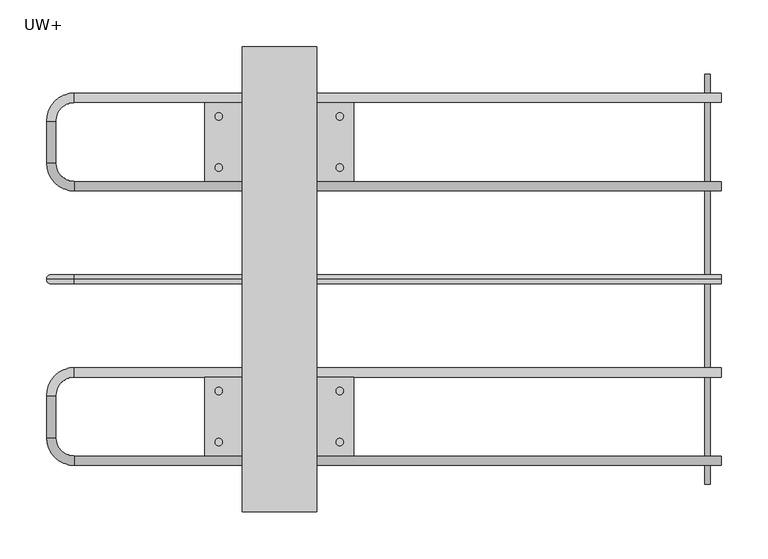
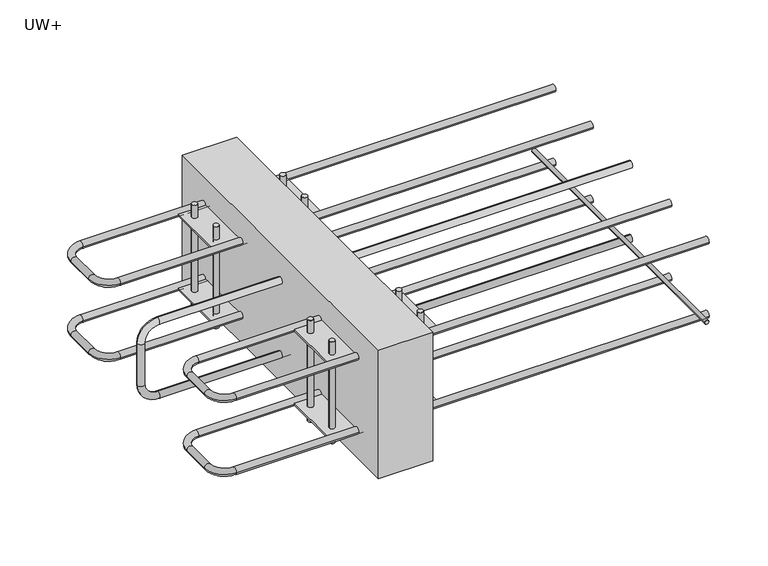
"""IFC4 building model written with IfcOpenShell, lengths in millimetres: proxy geometry, ACINOXplus_Typenreihe_UW-OW : UW+."""

from ifc_helpers import new_model, si_unit, point, frame, frame_2d, origin, place, context, project, spatial, polyline, circle_curve, ellipse_curve, trimmed, segment, composite_curve, outline, extrude, source, transform, mapped, element, save
from ifc_brep_helpers import plane_surface, cylinder_surface, revolved_surface, advanced_brep


def uw_d5b7e790(model_context):
    return source(origin(), model_context, "Body", "SolidModel", [
        advanced_brep(
        [(475.0, 0.0, -37.5), (475.0, 0.0, -47.5), (-220.0, 0.0, -37.5), (-220.0, 0.0, -47.5), (-240.0, 0.0, -67.5), (-250.0, 0.0, -67.5), (-250.0, 0.0, -132.5), (-240.0, 0.0, -132.5), (-220.0, 0.0, -152.5), (-220.0, 0.0, -162.5), (475.0, 0.0, -162.5), (475.0, 0.0, -152.5)],
        [
            (0, 1, circle_curve(frame((475.0, 0.0, -42.5), z_axis=(1.0, 0.0, 0.0), x_axis=(0.0, 0.0, -1.0)), 5.0)),
            (1, 0, circle_curve(frame((475.0, 0.0, -42.5), z_axis=(1.0, 0.0, 0.0), x_axis=(0.0, 0.0, -1.0)), 5.0)),
            (0, 2),
            (2, 3, circle_curve(frame((-220.0, 0.0, -42.5), z_axis=(1.0, 0.0, 0.0), x_axis=(0.0, 0.0, -1.0)), 5.0)),
            (3, 1),
            (3, 2, circle_curve(frame((-220.0, 0.0, -42.5), z_axis=(1.0, 0.0, 0.0), x_axis=(0.0, 0.0, -1.0)), 5.0)),
            (4, 3, circle_curve(frame((-220.0, 0.0, -67.5), z_axis=(0.0, 1.0, 0.0), x_axis=(0.0, 0.0, 1.0)), 20.0)),
            (2, 5, circle_curve(frame((-220.0, 0.0, -67.5), z_axis=(0.0, -1.0, 0.0), x_axis=(0.0, 0.0, 1.0)), 30.0)),
            (5, 4, circle_curve(frame((-245.0, 0.0, -67.5), z_axis=(0.0, 0.0, 1.0), x_axis=(1.0, 0.0, 0.0)), 5.0)),
            (4, 5, circle_curve(frame((-245.0, 0.0, -67.5), z_axis=(0.0, 0.0, 1.0), x_axis=(1.0, 0.0, 0.0)), 5.0)),
            (5, 6),
            (6, 7, circle_curve(frame((-245.0, 0.0, -132.5), z_axis=(0.0, 0.0, 1.0), x_axis=(1.0, 0.0, 0.0)), 5.0)),
            (7, 4),
            (7, 6, circle_curve(frame((-245.0, 0.0, -132.5), z_axis=(0.0, 0.0, 1.0), x_axis=(1.0, 0.0, 0.0)), 5.0)),
            (8, 7, circle_curve(frame((-220.0, 0.0, -132.5), z_axis=(0.0, 1.0, 0.0), x_axis=(-1.0, 0.0, 0.0)), 20.0)),
            (6, 9, circle_curve(frame((-220.0, 0.0, -132.5), z_axis=(0.0, -1.0, 0.0), x_axis=(-1.0, 0.0, 0.0)), 30.0)),
            (9, 8, circle_curve(frame((-220.0, 0.0, -157.5), z_axis=(-1.0, 0.0, 0.0), x_axis=(0.0, 0.0, 1.0)), 5.0)),
            (8, 9, circle_curve(frame((-220.0, 0.0, -157.5), z_axis=(-1.0, 0.0, 0.0), x_axis=(0.0, 0.0, 1.0)), 5.0)),
            (10, 11, circle_curve(frame((475.0, 0.0, -157.5), z_axis=(1.0, 0.0, 0.0), x_axis=(0.0, 0.0, 1.0)), 5.0)),
            (11, 10, circle_curve(frame((475.0, 0.0, -157.5), z_axis=(1.0, 0.0, 0.0), x_axis=(0.0, 0.0, 1.0)), 5.0)),
            (9, 10),
            (11, 8),
        ],
        [
            plane_surface(frame((475.0, 0.0, -42.5), z_axis=(1.0, 0.0, 0.0), x_axis=(0.0, -1.0, 0.0))),
            cylinder_surface(frame((475.0, 0.0, -42.5), z_axis=(1.0, 0.0, 0.0), x_axis=(0.0, 0.0, -1.0)), 5.0),
            revolved_surface(trimmed(ellipse_curve(frame((-220.0, 0.0, -42.5), z_axis=(1.0, 0.0, 0.0), x_axis=(0.0, 0.0, -1.0)), 5.0, 5.0), [point((-220.0, 0.0, -37.5))], [point((-220.0, 0.0, -47.5))], True, "CARTESIAN"), (-220.0, 0.0, -67.5), (0.0, -1.0, 0.0)),
            revolved_surface(trimmed(ellipse_curve(frame((-220.0, 0.0, -42.5), z_axis=(1.0, 0.0, 0.0), x_axis=(0.0, 0.0, -1.0)), 5.0, 5.0), [point((-220.0, 0.0, -47.5))], [point((-220.0, 0.0, -37.5))], True, "CARTESIAN"), (-220.0, 0.0, -67.5), (0.0, -1.0, 0.0)),
            cylinder_surface(frame((-245.0, 0.0, -67.5), z_axis=(0.0, 0.0, 1.0), x_axis=(1.0, 0.0, 0.0)), 5.0),
            revolved_surface(trimmed(ellipse_curve(frame((-245.0, 0.0, -132.5), z_axis=(0.0, 0.0, 1.0), x_axis=(1.0, 0.0, 0.0)), 5.0, 5.0), [point((-250.0, 0.0, -132.5))], [point((-240.0, 0.0, -132.5))], True, "CARTESIAN"), (-220.0, 0.0, -132.5), (0.0, -1.0, 0.0)),
            revolved_surface(trimmed(ellipse_curve(frame((-245.0, 0.0, -132.5), z_axis=(0.0, 0.0, 1.0), x_axis=(1.0, 0.0, 0.0)), 5.0, 5.0), [point((-240.0, 0.0, -132.5))], [point((-250.0, 0.0, -132.5))], True, "CARTESIAN"), (-220.0, 0.0, -132.5), (0.0, -1.0, 0.0)),
            plane_surface(frame((475.0, 0.0, -157.5), z_axis=(1.0, 0.0, 0.0), x_axis=(0.0, -1.0, 0.0))),
            cylinder_surface(frame((-220.0, 0.0, -157.5), z_axis=(-1.0, 0.0, 0.0), x_axis=(0.0, 0.0, 1.0)), 5.0),
        ],
        [
            (0, [[1, 2]]),
            (1, [[-1, 3, 4, 5]]),
            (1, [[-2, -5, 6, -3]]),
            (2, [[7, -4, 8, 9]]),
            (3, [[-8, -6, -7, 10]]),
            (4, [[-9, 11, 12, 13]]),
            (4, [[-10, -13, 14, -11]]),
            (5, [[15, -12, 16, 17]]),
            (6, [[-16, -14, -15, 18]]),
            (7, [[19, 20]]),
            (8, [[-17, 21, -20, 22]]),
            (8, [[-18, -22, -19, -21]]),
        ],
    ),
        advanced_brep(
        [(475.0, -95.0, -42.5), (475.0, -105.0, -42.5), (-220.0, -95.0, -42.5), (-220.0, -105.0, -42.5), (-240.0, -125.0, -42.5), (-250.0, -125.0, -42.5), (-250.0, -170.0, -42.5), (-240.0, -170.0, -42.5), (-220.0, -190.0, -42.5), (-220.0, -200.0, -42.5), (475.0, -200.0, -42.5), (475.0, -190.0, -42.5)],
        [
            (0, 1, circle_curve(frame((475.0, -100.0, -42.5), z_axis=(1.0, 0.0, 0.0), x_axis=(0.0, -1.0, 0.0)), 5.0)),
            (1, 0, circle_curve(frame((475.0, -100.0, -42.5), z_axis=(1.0, 0.0, 0.0), x_axis=(0.0, -1.0, 0.0)), 5.0)),
            (0, 2),
            (2, 3, circle_curve(frame((-220.0, -100.0, -42.5), z_axis=(1.0, 0.0, 0.0), x_axis=(0.0, -1.0, 0.0)), 5.0)),
            (3, 1),
            (3, 2, circle_curve(frame((-220.0, -100.0, -42.5), z_axis=(1.0, 0.0, 0.0), x_axis=(0.0, -1.0, 0.0)), 5.0)),
            (4, 3, circle_curve(frame((-220.0, -125.0, -42.5), z_axis=(0.0, 0.0, -1.0), x_axis=(0.0, 1.0, 0.0)), 20.0)),
            (2, 5, circle_curve(frame((-220.0, -125.0, -42.5), z_axis=(0.0, 0.0, 1.0), x_axis=(0.0, 1.0, 0.0)), 30.0)),
            (5, 4, circle_curve(frame((-245.0, -125.0, -42.5), z_axis=(0.0, 1.0, 0.0), x_axis=(1.0, 0.0, 0.0)), 5.0)),
            (4, 5, circle_curve(frame((-245.0, -125.0, -42.5), z_axis=(0.0, 1.0, 0.0), x_axis=(1.0, 0.0, 0.0)), 5.0)),
            (5, 6),
            (6, 7, circle_curve(frame((-245.0, -170.0, -42.5), z_axis=(0.0, 1.0, 0.0), x_axis=(1.0, 0.0, 0.0)), 5.0)),
            (7, 4),
            (7, 6, circle_curve(frame((-245.0, -170.0, -42.5), z_axis=(0.0, 1.0, 0.0), x_axis=(1.0, 0.0, 0.0)), 5.0)),
            (8, 7, circle_curve(frame((-220.0, -170.0, -42.5), z_axis=(0.0, 0.0, -1.0), x_axis=(-1.0, 0.0, 0.0)), 20.0)),
            (6, 9, circle_curve(frame((-220.0, -170.0, -42.5), z_axis=(0.0, 0.0, 1.0), x_axis=(-1.0, 0.0, 0.0)), 30.0)),
            (9, 8, circle_curve(frame((-220.0, -195.0, -42.5), z_axis=(-1.0, 0.0, 0.0), x_axis=(0.0, 1.0, 0.0)), 5.0)),
            (8, 9, circle_curve(frame((-220.0, -195.0, -42.5), z_axis=(-1.0, 0.0, 0.0), x_axis=(0.0, 1.0, 0.0)), 5.0)),
            (10, 11, circle_curve(frame((475.0, -195.0, -42.5), z_axis=(1.0, 0.0, 0.0), x_axis=(0.0, 1.0, 0.0)), 5.0)),
            (11, 10, circle_curve(frame((475.0, -195.0, -42.5), z_axis=(1.0, 0.0, 0.0), x_axis=(0.0, 1.0, 0.0)), 5.0)),
            (9, 10),
            (11, 8),
        ],
        [
            plane_surface(frame((475.0, -100.0, -42.5), z_axis=(1.0, 0.0, 0.0), x_axis=(0.0, 0.0, 1.0))),
            cylinder_surface(frame((475.0, -100.0, -42.5), z_axis=(1.0, 0.0, 0.0), x_axis=(0.0, -1.0, 0.0)), 5.0),
            revolved_surface(trimmed(ellipse_curve(frame((-220.0, -100.0, -42.5), z_axis=(1.0, 0.0, 0.0), x_axis=(0.0, -1.0, 0.0)), 5.0, 5.0), [point((-220.0, -95.0, -42.5))], [point((-220.0, -105.0, -42.5))], True, "CARTESIAN"), (-220.0, -125.0, -42.5), (0.0, 0.0, 1.0)),
            revolved_surface(trimmed(ellipse_curve(frame((-220.0, -100.0, -42.5), z_axis=(1.0, 0.0, 0.0), x_axis=(0.0, -1.0, 0.0)), 5.0, 5.0), [point((-220.0, -105.0, -42.5))], [point((-220.0, -95.0, -42.5))], True, "CARTESIAN"), (-220.0, -125.0, -42.5), (0.0, 0.0, 1.0)),
            cylinder_surface(frame((-245.0, -125.0, -42.5), z_axis=(0.0, 1.0, 0.0), x_axis=(1.0, 0.0, 0.0)), 5.0),
            revolved_surface(trimmed(ellipse_curve(frame((-245.0, -170.0, -42.5), z_axis=(0.0, 1.0, 0.0), x_axis=(1.0, 0.0, 0.0)), 5.0, 5.0), [point((-250.0, -170.0, -42.5))], [point((-240.0, -170.0, -42.5))], True, "CARTESIAN"), (-220.0, -170.0, -42.5), (0.0, 0.0, 1.0)),
            revolved_surface(trimmed(ellipse_curve(frame((-245.0, -170.0, -42.5), z_axis=(0.0, 1.0, 0.0), x_axis=(1.0, 0.0, 0.0)), 5.0, 5.0), [point((-240.0, -170.0, -42.5))], [point((-250.0, -170.0, -42.5))], True, "CARTESIAN"), (-220.0, -170.0, -42.5), (0.0, 0.0, 1.0)),
            plane_surface(frame((475.0, -195.0, -42.5), z_axis=(1.0, 0.0, 0.0), x_axis=(0.0, 0.0, 1.0))),
            cylinder_surface(frame((-220.0, -195.0, -42.5), z_axis=(-1.0, 0.0, 0.0), x_axis=(0.0, 1.0, 0.0)), 5.0),
        ],
        [
            (0, [[1, 2]]),
            (1, [[-1, 3, 4, 5]]),
            (1, [[-2, -5, 6, -3]]),
            (2, [[7, -4, 8, 9]]),
            (3, [[-8, -6, -7, 10]]),
            (4, [[-9, 11, 12, 13]]),
            (4, [[-10, -13, 14, -11]]),
            (5, [[15, -12, 16, 17]]),
            (6, [[-16, -14, -15, 18]]),
            (7, [[19, 20]]),
            (8, [[-17, 21, -20, 22]]),
            (8, [[-18, -22, -19, -21]]),
        ],
    ),
        advanced_brep(
        [(475.0, -95.0, -157.5), (475.0, -105.0, -157.5), (-220.0, -95.0, -157.5), (-220.0, -105.0, -157.5), (-240.0, -125.0, -157.5), (-250.0, -125.0, -157.5), (-250.0, -170.0, -157.5), (-240.0, -170.0, -157.5), (-220.0, -190.0, -157.5), (-220.0, -200.0, -157.5), (475.0, -200.0, -157.5), (475.0, -190.0, -157.5)],
        [
            (0, 1, circle_curve(frame((475.0, -100.0, -157.5), z_axis=(1.0, 0.0, 0.0), x_axis=(0.0, -1.0, 0.0)), 5.0)),
            (1, 0, circle_curve(frame((475.0, -100.0, -157.5), z_axis=(1.0, 0.0, 0.0), x_axis=(0.0, -1.0, 0.0)), 5.0)),
            (0, 2),
            (2, 3, circle_curve(frame((-220.0, -100.0, -157.5), z_axis=(1.0, 0.0, 0.0), x_axis=(0.0, -1.0, 0.0)), 5.0)),
            (3, 1),
            (3, 2, circle_curve(frame((-220.0, -100.0, -157.5), z_axis=(1.0, 0.0, 0.0), x_axis=(0.0, -1.0, 0.0)), 5.0)),
            (4, 3, circle_curve(frame((-220.0, -125.0, -157.5), z_axis=(0.0, 0.0, -1.0), x_axis=(0.0, 1.0, 0.0)), 20.0)),
            (2, 5, circle_curve(frame((-220.0, -125.0, -157.5), z_axis=(0.0, 0.0, 1.0), x_axis=(0.0, 1.0, 0.0)), 30.0)),
            (5, 4, circle_curve(frame((-245.0, -125.0, -157.5), z_axis=(0.0, 1.0, 0.0), x_axis=(1.0, 0.0, 0.0)), 5.0)),
            (4, 5, circle_curve(frame((-245.0, -125.0, -157.5), z_axis=(0.0, 1.0, 0.0), x_axis=(1.0, 0.0, 0.0)), 5.0)),
            (5, 6),
            (6, 7, circle_curve(frame((-245.0, -170.0, -157.5), z_axis=(0.0, 1.0, 0.0), x_axis=(1.0, 0.0, 0.0)), 5.0)),
            (7, 4),
            (7, 6, circle_curve(frame((-245.0, -170.0, -157.5), z_axis=(0.0, 1.0, 0.0), x_axis=(1.0, 0.0, 0.0)), 5.0)),
            (8, 7, circle_curve(frame((-220.0, -170.0, -157.5), z_axis=(0.0, 0.0, -1.0), x_axis=(-1.0, 0.0, 0.0)), 20.0)),
            (6, 9, circle_curve(frame((-220.0, -170.0, -157.5), z_axis=(0.0, 0.0, 1.0), x_axis=(-1.0, 0.0, 0.0)), 30.0)),
            (9, 8, circle_curve(frame((-220.0, -195.0, -157.5), z_axis=(-1.0, 0.0, 0.0), x_axis=(0.0, 1.0, 0.0)), 5.0)),
            (8, 9, circle_curve(frame((-220.0, -195.0, -157.5), z_axis=(-1.0, 0.0, 0.0), x_axis=(0.0, 1.0, 0.0)), 5.0)),
            (10, 11, circle_curve(frame((475.0, -195.0, -157.5), z_axis=(1.0, 0.0, 0.0), x_axis=(0.0, 1.0, 0.0)), 5.0)),
            (11, 10, circle_curve(frame((475.0, -195.0, -157.5), z_axis=(1.0, 0.0, 0.0), x_axis=(0.0, 1.0, 0.0)), 5.0)),
            (9, 10),
            (11, 8),
        ],
        [
            plane_surface(frame((475.0, -100.0, -157.5), z_axis=(1.0, 0.0, 0.0), x_axis=(0.0, 0.0, 1.0))),
            cylinder_surface(frame((475.0, -100.0, -157.5), z_axis=(1.0, 0.0, 0.0), x_axis=(0.0, -1.0, 0.0)), 5.0),
            revolved_surface(trimmed(ellipse_curve(frame((-220.0, -100.0, -157.5), z_axis=(1.0, 0.0, 0.0), x_axis=(0.0, -1.0, 0.0)), 5.0, 5.0), [point((-220.0, -95.0, -157.5))], [point((-220.0, -105.0, -157.5))], True, "CARTESIAN"), (-220.0, -125.0, -157.5), (0.0, 0.0, 1.0)),
            revolved_surface(trimmed(ellipse_curve(frame((-220.0, -100.0, -157.5), z_axis=(1.0, 0.0, 0.0), x_axis=(0.0, -1.0, 0.0)), 5.0, 5.0), [point((-220.0, -105.0, -157.5))], [point((-220.0, -95.0, -157.5))], True, "CARTESIAN"), (-220.0, -125.0, -157.5), (0.0, 0.0, 1.0)),
            cylinder_surface(frame((-245.0, -125.0, -157.5), z_axis=(0.0, 1.0, 0.0), x_axis=(1.0, 0.0, 0.0)), 5.0),
            revolved_surface(trimmed(ellipse_curve(frame((-245.0, -170.0, -157.5), z_axis=(0.0, 1.0, 0.0), x_axis=(1.0, 0.0, 0.0)), 5.0, 5.0), [point((-250.0, -170.0, -157.5))], [point((-240.0, -170.0, -157.5))], True, "CARTESIAN"), (-220.0, -170.0, -157.5), (0.0, 0.0, 1.0)),
            revolved_surface(trimmed(ellipse_curve(frame((-245.0, -170.0, -157.5), z_axis=(0.0, 1.0, 0.0), x_axis=(1.0, 0.0, 0.0)), 5.0, 5.0), [point((-240.0, -170.0, -157.5))], [point((-250.0, -170.0, -157.5))], True, "CARTESIAN"), (-220.0, -170.0, -157.5), (0.0, 0.0, 1.0)),
            plane_surface(frame((475.0, -195.0, -157.5), z_axis=(1.0, 0.0, 0.0), x_axis=(0.0, 0.0, 1.0))),
            cylinder_surface(frame((-220.0, -195.0, -157.5), z_axis=(-1.0, 0.0, 0.0), x_axis=(0.0, 1.0, 0.0)), 5.0),
        ],
        [
            (0, [[1, 2]]),
            (1, [[-1, 3, 4, 5]]),
            (1, [[-2, -5, 6, -3]]),
            (2, [[7, -4, 8, 9]]),
            (3, [[-8, -6, -7, 10]]),
            (4, [[-9, 11, 12, 13]]),
            (4, [[-10, -13, 14, -11]]),
            (5, [[15, -12, 16, 17]]),
            (6, [[-16, -14, -15, 18]]),
            (7, [[19, 20]]),
            (8, [[-17, 21, -20, 22]]),
            (8, [[-18, -22, -19, -21]]),
        ],
    ),
        advanced_brep(
        [(80.0, -105.0, -41.0), (-80.0, -105.0, -41.0), (-80.0, -190.0, -41.0), (80.0, -190.0, -41.0), (-61.0, -120.0, -41.0), (-69.0, -120.0, -41.0), (69.0, -120.0, -41.0), (61.0, -120.0, -41.0), (-61.0, -175.0, -41.0), (-69.0, -175.0, -41.0), (69.0, -175.0, -41.0), (61.0, -175.0, -41.0), (80.0, -105.0, -44.0), (80.0, -190.0, -44.0), (-80.0, -190.0, -44.0), (-80.0, -105.0, -44.0), (-69.0, -120.0, -44.0), (-61.0, -120.0, -44.0), (61.0, -120.0, -44.0), (69.0, -120.0, -44.0), (-69.0, -175.0, -44.0), (-61.0, -175.0, -44.0), (61.0, -175.0, -44.0), (69.0, -175.0, -44.0), (-69.0, -120.0, -21.0), (-61.0, -120.0, -21.0), (61.0, -120.0, -21.0), (69.0, -120.0, -21.0), (-69.0, -175.0, -21.0), (-61.0, -175.0, -21.0), (61.0, -175.0, -21.0), (69.0, -175.0, -21.0), (-69.0, -120.0, -179.0), (-61.0, -120.0, -179.0), (61.0, -120.0, -179.0), (69.0, -120.0, -179.0), (-69.0, -175.0, -179.0), (-61.0, -175.0, -179.0), (61.0, -175.0, -179.0), (69.0, -175.0, -179.0), (-69.0, -120.0, -156.0), (-61.0, -120.0, -156.0), (-61.0, -120.0, -159.0), (-69.0, -120.0, -159.0), (61.0, -120.0, -156.0), (69.0, -120.0, -156.0), (69.0, -120.0, -159.0), (61.0, -120.0, -159.0), (-69.0, -175.0, -156.0), (-61.0, -175.0, -156.0), (-61.0, -175.0, -159.0), (-69.0, -175.0, -159.0), (61.0, -175.0, -156.0), (69.0, -175.0, -156.0), (69.0, -175.0, -159.0), (61.0, -175.0, -159.0), (80.0, -105.0, -156.0), (-80.0, -105.0, -156.0), (-80.0, -190.0, -156.0), (80.0, -190.0, -156.0), (80.0, -105.0, -159.0), (80.0, -190.0, -159.0), (-80.0, -190.0, -159.0), (-80.0, -105.0, -159.0)],
        [
            (0, 1),
            (1, 2),
            (2, 3),
            (3, 0),
            (4, 5, circle_curve(frame((-65.0, -120.0, -41.0), z_axis=(0.0, 0.0, -1.0), x_axis=(1.0, 0.0, 0.0)), 4.0)),
            (5, 4, circle_curve(frame((-65.0, -120.0, -41.0), z_axis=(0.0, 0.0, -1.0), x_axis=(1.0, 0.0, 0.0)), 4.0)),
            (6, 7, circle_curve(frame((65.0, -120.0, -41.0), z_axis=(0.0, 0.0, -1.0), x_axis=(1.0, 0.0, 0.0)), 4.0)),
            (7, 6, circle_curve(frame((65.0, -120.0, -41.0), z_axis=(0.0, 0.0, -1.0), x_axis=(1.0, 0.0, 0.0)), 4.0)),
            (8, 9, circle_curve(frame((-65.0, -175.0, -41.0), z_axis=(0.0, 0.0, -1.0), x_axis=(1.0, 0.0, 0.0)), 4.0)),
            (9, 8, circle_curve(frame((-65.0, -175.0, -41.0), z_axis=(0.0, 0.0, -1.0), x_axis=(1.0, 0.0, 0.0)), 4.0)),
            (10, 11, circle_curve(frame((65.0, -175.0, -41.0), z_axis=(0.0, 0.0, -1.0), x_axis=(1.0, 0.0, 0.0)), 4.0)),
            (11, 10, circle_curve(frame((65.0, -175.0, -41.0), z_axis=(0.0, 0.0, -1.0), x_axis=(1.0, 0.0, 0.0)), 4.0)),
            (12, 13),
            (13, 14),
            (14, 15),
            (15, 12),
            (16, 17, circle_curve(frame((-65.0, -120.0, -44.0), z_axis=(0.0, 0.0, 1.0), x_axis=(1.0, 0.0, 0.0)), 4.0)),
            (17, 16, circle_curve(frame((-65.0, -120.0, -44.0), z_axis=(0.0, 0.0, 1.0), x_axis=(1.0, 0.0, 0.0)), 4.0)),
            (18, 19, circle_curve(frame((65.0, -120.0, -44.0), z_axis=(0.0, 0.0, 1.0), x_axis=(1.0, 0.0, 0.0)), 4.0)),
            (19, 18, circle_curve(frame((65.0, -120.0, -44.0), z_axis=(0.0, 0.0, 1.0), x_axis=(1.0, 0.0, 0.0)), 4.0)),
            (20, 21, circle_curve(frame((-65.0, -175.0, -44.0), z_axis=(0.0, 0.0, 1.0), x_axis=(1.0, 0.0, 0.0)), 4.0)),
            (21, 20, circle_curve(frame((-65.0, -175.0, -44.0), z_axis=(0.0, 0.0, 1.0), x_axis=(1.0, 0.0, 0.0)), 4.0)),
            (22, 23, circle_curve(frame((65.0, -175.0, -44.0), z_axis=(0.0, 0.0, 1.0), x_axis=(1.0, 0.0, 0.0)), 4.0)),
            (23, 22, circle_curve(frame((65.0, -175.0, -44.0), z_axis=(0.0, 0.0, 1.0), x_axis=(1.0, 0.0, 0.0)), 4.0)),
            (0, 12),
            (15, 1),
            (14, 2),
            (13, 3),
            (24, 25, circle_curve(frame((-65.0, -120.0, -21.0), z_axis=(0.0, 0.0, 1.0), x_axis=(1.0, 0.0, 0.0)), 4.0)),
            (25, 24, circle_curve(frame((-65.0, -120.0, -21.0), z_axis=(0.0, 0.0, 1.0), x_axis=(1.0, 0.0, 0.0)), 4.0)),
            (26, 27, circle_curve(frame((65.0, -120.0, -21.0), z_axis=(0.0, 0.0, 1.0), x_axis=(1.0, 0.0, 0.0)), 4.0)),
            (27, 26, circle_curve(frame((65.0, -120.0, -21.0), z_axis=(0.0, 0.0, 1.0), x_axis=(1.0, 0.0, 0.0)), 4.0)),
            (28, 29, circle_curve(frame((-65.0, -175.0, -21.0), z_axis=(0.0, 0.0, 1.0), x_axis=(1.0, 0.0, 0.0)), 4.0)),
            (29, 28, circle_curve(frame((-65.0, -175.0, -21.0), z_axis=(0.0, 0.0, 1.0), x_axis=(1.0, 0.0, 0.0)), 4.0)),
            (30, 31, circle_curve(frame((65.0, -175.0, -21.0), z_axis=(0.0, 0.0, 1.0), x_axis=(1.0, 0.0, 0.0)), 4.0)),
            (31, 30, circle_curve(frame((65.0, -175.0, -21.0), z_axis=(0.0, 0.0, 1.0), x_axis=(1.0, 0.0, 0.0)), 4.0)),
            (32, 33, circle_curve(frame((-65.0, -120.0, -179.0), z_axis=(0.0, 0.0, -1.0), x_axis=(1.0, 0.0, 0.0)), 4.0)),
            (33, 32, circle_curve(frame((-65.0, -120.0, -179.0), z_axis=(0.0, 0.0, -1.0), x_axis=(1.0, 0.0, 0.0)), 4.0)),
            (34, 35, circle_curve(frame((65.0, -120.0, -179.0), z_axis=(0.0, 0.0, -1.0), x_axis=(1.0, 0.0, 0.0)), 4.0)),
            (35, 34, circle_curve(frame((65.0, -120.0, -179.0), z_axis=(0.0, 0.0, -1.0), x_axis=(1.0, 0.0, 0.0)), 4.0)),
            (36, 37, circle_curve(frame((-65.0, -175.0, -179.0), z_axis=(0.0, 0.0, -1.0), x_axis=(1.0, 0.0, 0.0)), 4.0)),
            (37, 36, circle_curve(frame((-65.0, -175.0, -179.0), z_axis=(0.0, 0.0, -1.0), x_axis=(1.0, 0.0, 0.0)), 4.0)),
            (38, 39, circle_curve(frame((65.0, -175.0, -179.0), z_axis=(0.0, 0.0, -1.0), x_axis=(1.0, 0.0, 0.0)), 4.0)),
            (39, 38, circle_curve(frame((65.0, -175.0, -179.0), z_axis=(0.0, 0.0, -1.0), x_axis=(1.0, 0.0, 0.0)), 4.0)),
            (16, 40),
            (40, 41, circle_curve(frame((-65.0, -120.0, -156.0), z_axis=(0.0, 0.0, 1.0), x_axis=(1.0, 0.0, 0.0)), 4.0)),
            (41, 17),
            (24, 5),
            (4, 25),
            (33, 42),
            (42, 43, circle_curve(frame((-65.0, -120.0, -159.0), z_axis=(0.0, 0.0, -1.0), x_axis=(1.0, 0.0, 0.0)), 4.0)),
            (43, 32),
            (41, 40, circle_curve(frame((-65.0, -120.0, -156.0), z_axis=(0.0, 0.0, 1.0), x_axis=(1.0, 0.0, 0.0)), 4.0)),
            (43, 42, circle_curve(frame((-65.0, -120.0, -159.0), z_axis=(0.0, 0.0, -1.0), x_axis=(1.0, 0.0, 0.0)), 4.0)),
            (18, 44),
            (44, 45, circle_curve(frame((65.0, -120.0, -156.0), z_axis=(0.0, 0.0, 1.0), x_axis=(1.0, 0.0, 0.0)), 4.0)),
            (45, 19),
            (26, 7),
            (6, 27),
            (35, 46),
            (46, 47, circle_curve(frame((65.0, -120.0, -159.0), z_axis=(0.0, 0.0, -1.0), x_axis=(1.0, 0.0, 0.0)), 4.0)),
            (47, 34),
            (45, 44, circle_curve(frame((65.0, -120.0, -156.0), z_axis=(0.0, 0.0, 1.0), x_axis=(1.0, 0.0, 0.0)), 4.0)),
            (47, 46, circle_curve(frame((65.0, -120.0, -159.0), z_axis=(0.0, 0.0, -1.0), x_axis=(1.0, 0.0, 0.0)), 4.0)),
            (20, 48),
            (48, 49, circle_curve(frame((-65.0, -175.0, -156.0), z_axis=(0.0, 0.0, 1.0), x_axis=(1.0, 0.0, 0.0)), 4.0)),
            (49, 21),
            (28, 9),
            (8, 29),
            (37, 50),
            (50, 51, circle_curve(frame((-65.0, -175.0, -159.0), z_axis=(0.0, 0.0, -1.0), x_axis=(1.0, 0.0, 0.0)), 4.0)),
            (51, 36),
            (49, 48, circle_curve(frame((-65.0, -175.0, -156.0), z_axis=(0.0, 0.0, 1.0), x_axis=(1.0, 0.0, 0.0)), 4.0)),
            (51, 50, circle_curve(frame((-65.0, -175.0, -159.0), z_axis=(0.0, 0.0, -1.0), x_axis=(1.0, 0.0, 0.0)), 4.0)),
            (22, 52),
            (52, 53, circle_curve(frame((65.0, -175.0, -156.0), z_axis=(0.0, 0.0, 1.0), x_axis=(1.0, 0.0, 0.0)), 4.0)),
            (53, 23),
            (30, 11),
            (10, 31),
            (39, 54),
            (54, 55, circle_curve(frame((65.0, -175.0, -159.0), z_axis=(0.0, 0.0, -1.0), x_axis=(1.0, 0.0, 0.0)), 4.0)),
            (55, 38),
            (53, 52, circle_curve(frame((65.0, -175.0, -156.0), z_axis=(0.0, 0.0, 1.0), x_axis=(1.0, 0.0, 0.0)), 4.0)),
            (55, 54, circle_curve(frame((65.0, -175.0, -159.0), z_axis=(0.0, 0.0, -1.0), x_axis=(1.0, 0.0, 0.0)), 4.0)),
            (56, 57),
            (57, 58),
            (58, 59),
            (59, 56),
            (60, 61),
            (61, 62),
            (62, 63),
            (63, 60),
            (56, 60),
            (63, 57),
            (62, 58),
            (61, 59),
        ],
        [
            plane_surface(frame((-80.0, -105.0, -41.0), z_axis=(0.0, 0.0, 1.0), x_axis=(-1.0, 0.0, 0.0))),
            plane_surface(frame((-80.0, -105.0, -44.0), z_axis=(0.0, 0.0, -1.0), x_axis=(1.0, 0.0, 0.0))),
            plane_surface(frame((80.0, -105.0, -41.0), z_axis=(0.0, 1.0, 0.0), x_axis=(0.0, 0.0, -1.0))),
            plane_surface(frame((-80.0, -105.0, -41.0), z_axis=(-1.0, 0.0, 0.0), x_axis=(0.0, 0.0, -1.0))),
            plane_surface(frame((-80.0, -190.0, -41.0), z_axis=(0.0, -1.0, 0.0), x_axis=(0.0, 0.0, -1.0))),
            plane_surface(frame((80.0, -190.0, -41.0), z_axis=(1.0, 0.0, 0.0), x_axis=(0.0, 0.0, -1.0))),
            plane_surface(frame((-61.0, -120.0, -21.0), z_axis=(0.0, 0.0, 1.0), x_axis=(0.0, 1.0, 0.0))),
            plane_surface(frame((-61.0, -120.0, -179.0), z_axis=(0.0, 0.0, -1.0), x_axis=(0.0, -1.0, 0.0))),
            cylinder_surface(frame((-65.0, -120.0, -179.0), z_axis=(0.0, 0.0, 1.0), x_axis=(1.0, 0.0, 0.0)), 4.0),
            cylinder_surface(frame((65.0, -120.0, -162.5), z_axis=(0.0, 0.0, 1.0), x_axis=(1.0, 0.0, 0.0)), 4.0),
            cylinder_surface(frame((-65.0, -175.0, -162.5), z_axis=(0.0, 0.0, 1.0), x_axis=(1.0, 0.0, 0.0)), 4.0),
            cylinder_surface(frame((65.0, -175.0, -162.5), z_axis=(0.0, 0.0, 1.0), x_axis=(1.0, 0.0, 0.0)), 4.0),
            plane_surface(frame((-80.0, -105.0, -156.0), z_axis=(0.0, 0.0, 1.0), x_axis=(-1.0, 0.0, 0.0))),
            plane_surface(frame((-80.0, -105.0, -159.0), z_axis=(0.0, 0.0, -1.0), x_axis=(1.0, 0.0, 0.0))),
            plane_surface(frame((80.0, -105.0, -156.0), z_axis=(0.0, 1.0, 0.0), x_axis=(0.0, 0.0, -1.0))),
            plane_surface(frame((-80.0, -105.0, -156.0), z_axis=(-1.0, 0.0, 0.0), x_axis=(0.0, 0.0, -1.0))),
            plane_surface(frame((-80.0, -190.0, -156.0), z_axis=(0.0, -1.0, 0.0), x_axis=(0.0, 0.0, -1.0))),
            plane_surface(frame((80.0, -190.0, -156.0), z_axis=(1.0, 0.0, 0.0), x_axis=(0.0, 0.0, -1.0))),
        ],
        [
            (0, [[1, 2, 3, 4], [5, 6], [7, 8], [9, 10], [11, 12]]),
            (1, [[13, 14, 15, 16], [17, 18], [19, 20], [21, 22], [23, 24]]),
            (2, [[-1, 25, -16, 26]]),
            (3, [[-2, -26, -15, 27]]),
            (4, [[-3, -27, -14, 28]]),
            (5, [[-4, -28, -13, -25]]),
            (6, [[29, 30]]),
            (6, [[31, 32]]),
            (6, [[33, 34]]),
            (6, [[35, 36]]),
            (7, [[37, 38]]),
            (7, [[39, 40]]),
            (7, [[41, 42]]),
            (7, [[43, 44]]),
            (8, [[-17, 45, 46, 47]]),
            (8, [[-29, 48, -5, 49]]),
            (8, [[-38, 50, 51, 52]]),
            (8, [[-18, -47, 53, -45]]),
            (8, [[-30, -49, -6, -48]]),
            (8, [[-37, -52, 54, -50]]),
            (9, [[-19, 55, 56, 57]]),
            (9, [[-31, 58, -7, 59]]),
            (9, [[-40, 60, 61, 62]]),
            (9, [[-20, -57, 63, -55]]),
            (9, [[-32, -59, -8, -58]]),
            (9, [[-39, -62, 64, -60]]),
            (10, [[-21, 65, 66, 67]]),
            (10, [[-33, 68, -9, 69]]),
            (10, [[-42, 70, 71, 72]]),
            (10, [[-22, -67, 73, -65]]),
            (10, [[-34, -69, -10, -68]]),
            (10, [[-41, -72, 74, -70]]),
            (11, [[-23, 75, 76, 77]]),
            (11, [[-35, 78, -11, 79]]),
            (11, [[-44, 80, 81, 82]]),
            (11, [[-24, -77, 83, -75]]),
            (11, [[-36, -79, -12, -78]]),
            (11, [[-43, -82, 84, -80]]),
            (12, [[85, 86, 87, 88], [-46, -53], [-56, -63], [-66, -73], [-76, -83]]),
            (13, [[89, 90, 91, 92], [-51, -54], [-61, -64], [-71, -74], [-81, -84]]),
            (14, [[-85, 93, -92, 94]]),
            (15, [[-86, -94, -91, 95]]),
            (16, [[-87, -95, -90, 96]]),
            (17, [[-88, -96, -89, -93]]),
        ],
    ),
        advanced_brep(
        [(475.0, 200.0, -42.5), (475.0, 190.0, -42.5), (-220.0, 200.0, -42.5), (-220.0, 190.0, -42.5), (-240.0, 170.0, -42.5), (-250.0, 170.0, -42.5), (-250.0, 125.0, -42.5), (-240.0, 125.0, -42.5), (-220.0, 105.0, -42.5), (-220.0, 95.0, -42.5), (475.0, 95.0, -42.5), (475.0, 105.0, -42.5)],
        [
            (0, 1, circle_curve(frame((475.0, 195.0, -42.5), z_axis=(1.0, 0.0, 0.0), x_axis=(0.0, -1.0, 0.0)), 5.0)),
            (1, 0, circle_curve(frame((475.0, 195.0, -42.5), z_axis=(1.0, 0.0, 0.0), x_axis=(0.0, -1.0, 0.0)), 5.0)),
            (0, 2),
            (2, 3, circle_curve(frame((-220.0, 195.0, -42.5), z_axis=(1.0, 0.0, 0.0), x_axis=(0.0, -1.0, 0.0)), 5.0)),
            (3, 1),
            (3, 2, circle_curve(frame((-220.0, 195.0, -42.5), z_axis=(1.0, 0.0, 0.0), x_axis=(0.0, -1.0, 0.0)), 5.0)),
            (4, 3, circle_curve(frame((-220.0, 170.0, -42.5), z_axis=(0.0, 0.0, -1.0), x_axis=(0.0, 1.0, 0.0)), 20.0)),
            (2, 5, circle_curve(frame((-220.0, 170.0, -42.5), z_axis=(0.0, 0.0, 1.0), x_axis=(0.0, 1.0, 0.0)), 30.0)),
            (5, 4, circle_curve(frame((-245.0, 170.0, -42.5), z_axis=(0.0, 1.0, 0.0), x_axis=(1.0, 0.0, 0.0)), 5.0)),
            (4, 5, circle_curve(frame((-245.0, 170.0, -42.5), z_axis=(0.0, 1.0, 0.0), x_axis=(1.0, 0.0, 0.0)), 5.0)),
            (5, 6),
            (6, 7, circle_curve(frame((-245.0, 125.0, -42.5), z_axis=(0.0, 1.0, 0.0), x_axis=(1.0, 0.0, 0.0)), 5.0)),
            (7, 4),
            (7, 6, circle_curve(frame((-245.0, 125.0, -42.5), z_axis=(0.0, 1.0, 0.0), x_axis=(1.0, 0.0, 0.0)), 5.0)),
            (8, 7, circle_curve(frame((-220.0, 125.0, -42.5), z_axis=(0.0, 0.0, -1.0), x_axis=(-1.0, 0.0, 0.0)), 20.0)),
            (6, 9, circle_curve(frame((-220.0, 125.0, -42.5), z_axis=(0.0, 0.0, 1.0), x_axis=(-1.0, 0.0, 0.0)), 30.0)),
            (9, 8, circle_curve(frame((-220.0, 100.0, -42.5), z_axis=(-1.0, 0.0, 0.0), x_axis=(0.0, 1.0, 0.0)), 5.0)),
            (8, 9, circle_curve(frame((-220.0, 100.0, -42.5), z_axis=(-1.0, 0.0, 0.0), x_axis=(0.0, 1.0, 0.0)), 5.0)),
            (10, 11, circle_curve(frame((475.0, 100.0, -42.5), z_axis=(1.0, 0.0, 0.0), x_axis=(0.0, 1.0, 0.0)), 5.0)),
            (11, 10, circle_curve(frame((475.0, 100.0, -42.5), z_axis=(1.0, 0.0, 0.0), x_axis=(0.0, 1.0, 0.0)), 5.0)),
            (9, 10),
            (11, 8),
        ],
        [
            plane_surface(frame((475.0, 195.0, -42.5), z_axis=(1.0, 0.0, 0.0), x_axis=(0.0, 0.0, 1.0))),
            cylinder_surface(frame((475.0, 195.0, -42.5), z_axis=(1.0, 0.0, 0.0), x_axis=(0.0, -1.0, 0.0)), 5.0),
            revolved_surface(trimmed(ellipse_curve(frame((-220.0, 195.0, -42.5), z_axis=(1.0, 0.0, 0.0), x_axis=(0.0, -1.0, 0.0)), 5.0, 5.0), [point((-220.0, 200.0, -42.5))], [point((-220.0, 190.0, -42.5))], True, "CARTESIAN"), (-220.0, 170.0, -42.5), (0.0, 0.0, 1.0)),
            revolved_surface(trimmed(ellipse_curve(frame((-220.0, 195.0, -42.5), z_axis=(1.0, 0.0, 0.0), x_axis=(0.0, -1.0, 0.0)), 5.0, 5.0), [point((-220.0, 190.0, -42.5))], [point((-220.0, 200.0, -42.5))], True, "CARTESIAN"), (-220.0, 170.0, -42.5), (0.0, 0.0, 1.0)),
            cylinder_surface(frame((-245.0, 170.0, -42.5), z_axis=(0.0, 1.0, 0.0), x_axis=(1.0, 0.0, 0.0)), 5.0),
            revolved_surface(trimmed(ellipse_curve(frame((-245.0, 125.0, -42.5), z_axis=(0.0, 1.0, 0.0), x_axis=(1.0, 0.0, 0.0)), 5.0, 5.0), [point((-250.0, 125.0, -42.5))], [point((-240.0, 125.0, -42.5))], True, "CARTESIAN"), (-220.0, 125.0, -42.5), (0.0, 0.0, 1.0)),
            revolved_surface(trimmed(ellipse_curve(frame((-245.0, 125.0, -42.5), z_axis=(0.0, 1.0, 0.0), x_axis=(1.0, 0.0, 0.0)), 5.0, 5.0), [point((-240.0, 125.0, -42.5))], [point((-250.0, 125.0, -42.5))], True, "CARTESIAN"), (-220.0, 125.0, -42.5), (0.0, 0.0, 1.0)),
            plane_surface(frame((475.0, 100.0, -42.5), z_axis=(1.0, 0.0, 0.0), x_axis=(0.0, 0.0, 1.0))),
            cylinder_surface(frame((-220.0, 100.0, -42.5), z_axis=(-1.0, 0.0, 0.0), x_axis=(0.0, 1.0, 0.0)), 5.0),
        ],
        [
            (0, [[1, 2]]),
            (1, [[-1, 3, 4, 5]]),
            (1, [[-2, -5, 6, -3]]),
            (2, [[7, -4, 8, 9]]),
            (3, [[-8, -6, -7, 10]]),
            (4, [[-9, 11, 12, 13]]),
            (4, [[-10, -13, 14, -11]]),
            (5, [[15, -12, 16, 17]]),
            (6, [[-16, -14, -15, 18]]),
            (7, [[19, 20]]),
            (8, [[-17, 21, -20, 22]]),
            (8, [[-18, -22, -19, -21]]),
        ],
    ),
        advanced_brep(
        [(475.0, 200.0, -157.5), (475.0, 190.0, -157.5), (-220.0, 200.0, -157.5), (-220.0, 190.0, -157.5), (-240.0, 170.0, -157.5), (-250.0, 170.0, -157.5), (-250.0, 125.0, -157.5), (-240.0, 125.0, -157.5), (-220.0, 105.0, -157.5), (-220.0, 95.0, -157.5), (475.0, 95.0, -157.5), (475.0, 105.0, -157.5)],
        [
            (0, 1, circle_curve(frame((475.0, 195.0, -157.5), z_axis=(1.0, 0.0, 0.0), x_axis=(0.0, -1.0, 0.0)), 5.0)),
            (1, 0, circle_curve(frame((475.0, 195.0, -157.5), z_axis=(1.0, 0.0, 0.0), x_axis=(0.0, -1.0, 0.0)), 5.0)),
            (0, 2),
            (2, 3, circle_curve(frame((-220.0, 195.0, -157.5), z_axis=(1.0, 0.0, 0.0), x_axis=(0.0, -1.0, 0.0)), 5.0)),
            (3, 1),
            (3, 2, circle_curve(frame((-220.0, 195.0, -157.5), z_axis=(1.0, 0.0, 0.0), x_axis=(0.0, -1.0, 0.0)), 5.0)),
            (4, 3, circle_curve(frame((-220.0, 170.0, -157.5), z_axis=(0.0, 0.0, -1.0), x_axis=(0.0, 1.0, 0.0)), 20.0)),
            (2, 5, circle_curve(frame((-220.0, 170.0, -157.5), z_axis=(0.0, 0.0, 1.0), x_axis=(0.0, 1.0, 0.0)), 30.0)),
            (5, 4, circle_curve(frame((-245.0, 170.0, -157.5), z_axis=(0.0, 1.0, 0.0), x_axis=(1.0, 0.0, 0.0)), 5.0)),
            (4, 5, circle_curve(frame((-245.0, 170.0, -157.5), z_axis=(0.0, 1.0, 0.0), x_axis=(1.0, 0.0, 0.0)), 5.0)),
            (5, 6),
            (6, 7, circle_curve(frame((-245.0, 125.0, -157.5), z_axis=(0.0, 1.0, 0.0), x_axis=(1.0, 0.0, 0.0)), 5.0)),
            (7, 4),
            (7, 6, circle_curve(frame((-245.0, 125.0, -157.5), z_axis=(0.0, 1.0, 0.0), x_axis=(1.0, 0.0, 0.0)), 5.0)),
            (8, 7, circle_curve(frame((-220.0, 125.0, -157.5), z_axis=(0.0, 0.0, -1.0), x_axis=(-1.0, 0.0, 0.0)), 20.0)),
            (6, 9, circle_curve(frame((-220.0, 125.0, -157.5), z_axis=(0.0, 0.0, 1.0), x_axis=(-1.0, 0.0, 0.0)), 30.0)),
            (9, 8, circle_curve(frame((-220.0, 100.0, -157.5), z_axis=(-1.0, 0.0, 0.0), x_axis=(0.0, 1.0, 0.0)), 5.0)),
            (8, 9, circle_curve(frame((-220.0, 100.0, -157.5), z_axis=(-1.0, 0.0, 0.0), x_axis=(0.0, 1.0, 0.0)), 5.0)),
            (10, 11, circle_curve(frame((475.0, 100.0, -157.5), z_axis=(1.0, 0.0, 0.0), x_axis=(0.0, 1.0, 0.0)), 5.0)),
            (11, 10, circle_curve(frame((475.0, 100.0, -157.5), z_axis=(1.0, 0.0, 0.0), x_axis=(0.0, 1.0, 0.0)), 5.0)),
            (9, 10),
            (11, 8),
        ],
        [
            plane_surface(frame((475.0, 195.0, -157.5), z_axis=(1.0, 0.0, 0.0), x_axis=(0.0, 0.0, 1.0))),
            cylinder_surface(frame((475.0, 195.0, -157.5), z_axis=(1.0, 0.0, 0.0), x_axis=(0.0, -1.0, 0.0)), 5.0),
            revolved_surface(trimmed(ellipse_curve(frame((-220.0, 195.0, -157.5), z_axis=(1.0, 0.0, 0.0), x_axis=(0.0, -1.0, 0.0)), 5.0, 5.0), [point((-220.0, 200.0, -157.5))], [point((-220.0, 190.0, -157.5))], True, "CARTESIAN"), (-220.0, 170.0, -157.5), (0.0, 0.0, 1.0)),
            revolved_surface(trimmed(ellipse_curve(frame((-220.0, 195.0, -157.5), z_axis=(1.0, 0.0, 0.0), x_axis=(0.0, -1.0, 0.0)), 5.0, 5.0), [point((-220.0, 190.0, -157.5))], [point((-220.0, 200.0, -157.5))], True, "CARTESIAN"), (-220.0, 170.0, -157.5), (0.0, 0.0, 1.0)),
            cylinder_surface(frame((-245.0, 170.0, -157.5), z_axis=(0.0, 1.0, 0.0), x_axis=(1.0, 0.0, 0.0)), 5.0),
            revolved_surface(trimmed(ellipse_curve(frame((-245.0, 125.0, -157.5), z_axis=(0.0, 1.0, 0.0), x_axis=(1.0, 0.0, 0.0)), 5.0, 5.0), [point((-250.0, 125.0, -157.5))], [point((-240.0, 125.0, -157.5))], True, "CARTESIAN"), (-220.0, 125.0, -157.5), (0.0, 0.0, 1.0)),
            revolved_surface(trimmed(ellipse_curve(frame((-245.0, 125.0, -157.5), z_axis=(0.0, 1.0, 0.0), x_axis=(1.0, 0.0, 0.0)), 5.0, 5.0), [point((-240.0, 125.0, -157.5))], [point((-250.0, 125.0, -157.5))], True, "CARTESIAN"), (-220.0, 125.0, -157.5), (0.0, 0.0, 1.0)),
            plane_surface(frame((475.0, 100.0, -157.5), z_axis=(1.0, 0.0, 0.0), x_axis=(0.0, 0.0, 1.0))),
            cylinder_surface(frame((-220.0, 100.0, -157.5), z_axis=(-1.0, 0.0, 0.0), x_axis=(0.0, 1.0, 0.0)), 5.0),
        ],
        [
            (0, [[1, 2]]),
            (1, [[-1, 3, 4, 5]]),
            (1, [[-2, -5, 6, -3]]),
            (2, [[7, -4, 8, 9]]),
            (3, [[-8, -6, -7, 10]]),
            (4, [[-9, 11, 12, 13]]),
            (4, [[-10, -13, 14, -11]]),
            (5, [[15, -12, 16, 17]]),
            (6, [[-16, -14, -15, 18]]),
            (7, [[19, 20]]),
            (8, [[-17, 21, -20, 22]]),
            (8, [[-18, -22, -19, -21]]),
        ],
    ),
        advanced_brep(
        [(80.0, 190.0, -41.0), (-80.0, 190.0, -41.0), (-80.0, 105.0, -41.0), (80.0, 105.0, -41.0), (-61.0, 175.0, -41.0), (-69.0, 175.0, -41.0), (69.0, 175.0, -41.0), (61.0, 175.0, -41.0), (-61.0, 120.0, -41.0), (-69.0, 120.0, -41.0), (69.0, 120.0, -41.0), (61.0, 120.0, -41.0), (80.0, 190.0, -44.0), (80.0, 105.0, -44.0), (-80.0, 105.0, -44.0), (-80.0, 190.0, -44.0), (-69.0, 175.0, -44.0), (-61.0, 175.0, -44.0), (61.0, 175.0, -44.0), (69.0, 175.0, -44.0), (-69.0, 120.0, -44.0), (-61.0, 120.0, -44.0), (61.0, 120.0, -44.0), (69.0, 120.0, -44.0), (-69.0, 175.0, -21.0), (-61.0, 175.0, -21.0), (61.0, 175.0, -21.0), (69.0, 175.0, -21.0), (-69.0, 120.0, -21.0), (-61.0, 120.0, -21.0), (61.0, 120.0, -21.0), (69.0, 120.0, -21.0), (-69.0, 175.0, -179.0), (-61.0, 175.0, -179.0), (61.0, 175.0, -179.0), (69.0, 175.0, -179.0), (-69.0, 120.0, -179.0), (-61.0, 120.0, -179.0), (61.0, 120.0, -179.0), (69.0, 120.0, -179.0), (-69.0, 175.0, -156.0), (-61.0, 175.0, -156.0), (-61.0, 175.0, -159.0), (-69.0, 175.0, -159.0), (61.0, 175.0, -156.0), (69.0, 175.0, -156.0), (69.0, 175.0, -159.0), (61.0, 175.0, -159.0), (-69.0, 120.0, -156.0), (-61.0, 120.0, -156.0), (-61.0, 120.0, -159.0), (-69.0, 120.0, -159.0), (61.0, 120.0, -156.0), (69.0, 120.0, -156.0), (69.0, 120.0, -159.0), (61.0, 120.0, -159.0), (80.0, 190.0, -156.0), (-80.0, 190.0, -156.0), (-80.0, 105.0, -156.0), (80.0, 105.0, -156.0), (80.0, 190.0, -159.0), (80.0, 105.0, -159.0), (-80.0, 105.0, -159.0), (-80.0, 190.0, -159.0)],
        [
            (0, 1),
            (1, 2),
            (2, 3),
            (3, 0),
            (4, 5, circle_curve(frame((-65.0, 175.0, -41.0), z_axis=(0.0, 0.0, -1.0), x_axis=(1.0, 0.0, 0.0)), 4.0)),
            (5, 4, circle_curve(frame((-65.0, 175.0, -41.0), z_axis=(0.0, 0.0, -1.0), x_axis=(1.0, 0.0, 0.0)), 4.0)),
            (6, 7, circle_curve(frame((65.0, 175.0, -41.0), z_axis=(0.0, 0.0, -1.0), x_axis=(1.0, 0.0, 0.0)), 4.0)),
            (7, 6, circle_curve(frame((65.0, 175.0, -41.0), z_axis=(0.0, 0.0, -1.0), x_axis=(1.0, 0.0, 0.0)), 4.0)),
            (8, 9, circle_curve(frame((-65.0, 120.0, -41.0), z_axis=(0.0, 0.0, -1.0), x_axis=(1.0, 0.0, 0.0)), 4.0)),
            (9, 8, circle_curve(frame((-65.0, 120.0, -41.0), z_axis=(0.0, 0.0, -1.0), x_axis=(1.0, 0.0, 0.0)), 4.0)),
            (10, 11, circle_curve(frame((65.0, 120.0, -41.0), z_axis=(0.0, 0.0, -1.0), x_axis=(1.0, 0.0, 0.0)), 4.0)),
            (11, 10, circle_curve(frame((65.0, 120.0, -41.0), z_axis=(0.0, 0.0, -1.0), x_axis=(1.0, 0.0, 0.0)), 4.0)),
            (12, 13),
            (13, 14),
            (14, 15),
            (15, 12),
            (16, 17, circle_curve(frame((-65.0, 175.0, -44.0), z_axis=(0.0, 0.0, 1.0), x_axis=(1.0, 0.0, 0.0)), 4.0)),
            (17, 16, circle_curve(frame((-65.0, 175.0, -44.0), z_axis=(0.0, 0.0, 1.0), x_axis=(1.0, 0.0, 0.0)), 4.0)),
            (18, 19, circle_curve(frame((65.0, 175.0, -44.0), z_axis=(0.0, 0.0, 1.0), x_axis=(1.0, 0.0, 0.0)), 4.0)),
            (19, 18, circle_curve(frame((65.0, 175.0, -44.0), z_axis=(0.0, 0.0, 1.0), x_axis=(1.0, 0.0, 0.0)), 4.0)),
            (20, 21, circle_curve(frame((-65.0, 120.0, -44.0), z_axis=(0.0, 0.0, 1.0), x_axis=(1.0, 0.0, 0.0)), 4.0)),
            (21, 20, circle_curve(frame((-65.0, 120.0, -44.0), z_axis=(0.0, 0.0, 1.0), x_axis=(1.0, 0.0, 0.0)), 4.0)),
            (22, 23, circle_curve(frame((65.0, 120.0, -44.0), z_axis=(0.0, 0.0, 1.0), x_axis=(1.0, 0.0, 0.0)), 4.0)),
            (23, 22, circle_curve(frame((65.0, 120.0, -44.0), z_axis=(0.0, 0.0, 1.0), x_axis=(1.0, 0.0, 0.0)), 4.0)),
            (0, 12),
            (15, 1),
            (14, 2),
            (13, 3),
            (24, 25, circle_curve(frame((-65.0, 175.0, -21.0), z_axis=(0.0, 0.0, 1.0), x_axis=(1.0, 0.0, 0.0)), 4.0)),
            (25, 24, circle_curve(frame((-65.0, 175.0, -21.0), z_axis=(0.0, 0.0, 1.0), x_axis=(1.0, 0.0, 0.0)), 4.0)),
            (26, 27, circle_curve(frame((65.0, 175.0, -21.0), z_axis=(0.0, 0.0, 1.0), x_axis=(1.0, 0.0, 0.0)), 4.0)),
            (27, 26, circle_curve(frame((65.0, 175.0, -21.0), z_axis=(0.0, 0.0, 1.0), x_axis=(1.0, 0.0, 0.0)), 4.0)),
            (28, 29, circle_curve(frame((-65.0, 120.0, -21.0), z_axis=(0.0, 0.0, 1.0), x_axis=(1.0, 0.0, 0.0)), 4.0)),
            (29, 28, circle_curve(frame((-65.0, 120.0, -21.0), z_axis=(0.0, 0.0, 1.0), x_axis=(1.0, 0.0, 0.0)), 4.0)),
            (30, 31, circle_curve(frame((65.0, 120.0, -21.0), z_axis=(0.0, 0.0, 1.0), x_axis=(1.0, 0.0, 0.0)), 4.0)),
            (31, 30, circle_curve(frame((65.0, 120.0, -21.0), z_axis=(0.0, 0.0, 1.0), x_axis=(1.0, 0.0, 0.0)), 4.0)),
            (32, 33, circle_curve(frame((-65.0, 175.0, -179.0), z_axis=(0.0, 0.0, -1.0), x_axis=(1.0, 0.0, 0.0)), 4.0)),
            (33, 32, circle_curve(frame((-65.0, 175.0, -179.0), z_axis=(0.0, 0.0, -1.0), x_axis=(1.0, 0.0, 0.0)), 4.0)),
            (34, 35, circle_curve(frame((65.0, 175.0, -179.0), z_axis=(0.0, 0.0, -1.0), x_axis=(1.0, 0.0, 0.0)), 4.0)),
            (35, 34, circle_curve(frame((65.0, 175.0, -179.0), z_axis=(0.0, 0.0, -1.0), x_axis=(1.0, 0.0, 0.0)), 4.0)),
            (36, 37, circle_curve(frame((-65.0, 120.0, -179.0), z_axis=(0.0, 0.0, -1.0), x_axis=(1.0, 0.0, 0.0)), 4.0)),
            (37, 36, circle_curve(frame((-65.0, 120.0, -179.0), z_axis=(0.0, 0.0, -1.0), x_axis=(1.0, 0.0, 0.0)), 4.0)),
            (38, 39, circle_curve(frame((65.0, 120.0, -179.0), z_axis=(0.0, 0.0, -1.0), x_axis=(1.0, 0.0, 0.0)), 4.0)),
            (39, 38, circle_curve(frame((65.0, 120.0, -179.0), z_axis=(0.0, 0.0, -1.0), x_axis=(1.0, 0.0, 0.0)), 4.0)),
            (16, 40),
            (40, 41, circle_curve(frame((-65.0, 175.0, -156.0), z_axis=(0.0, 0.0, 1.0), x_axis=(1.0, 0.0, 0.0)), 4.0)),
            (41, 17),
            (24, 5),
            (4, 25),
            (33, 42),
            (42, 43, circle_curve(frame((-65.0, 175.0, -159.0), z_axis=(0.0, 0.0, -1.0), x_axis=(1.0, 0.0, 0.0)), 4.0)),
            (43, 32),
            (41, 40, circle_curve(frame((-65.0, 175.0, -156.0), z_axis=(0.0, 0.0, 1.0), x_axis=(1.0, 0.0, 0.0)), 4.0)),
            (43, 42, circle_curve(frame((-65.0, 175.0, -159.0), z_axis=(0.0, 0.0, -1.0), x_axis=(1.0, 0.0, 0.0)), 4.0)),
            (18, 44),
            (44, 45, circle_curve(frame((65.0, 175.0, -156.0), z_axis=(0.0, 0.0, 1.0), x_axis=(1.0, 0.0, 0.0)), 4.0)),
            (45, 19),
            (26, 7),
            (6, 27),
            (35, 46),
            (46, 47, circle_curve(frame((65.0, 175.0, -159.0), z_axis=(0.0, 0.0, -1.0), x_axis=(1.0, 0.0, 0.0)), 4.0)),
            (47, 34),
            (45, 44, circle_curve(frame((65.0, 175.0, -156.0), z_axis=(0.0, 0.0, 1.0), x_axis=(1.0, 0.0, 0.0)), 4.0)),
            (47, 46, circle_curve(frame((65.0, 175.0, -159.0), z_axis=(0.0, 0.0, -1.0), x_axis=(1.0, 0.0, 0.0)), 4.0)),
            (20, 48),
            (48, 49, circle_curve(frame((-65.0, 120.0, -156.0), z_axis=(0.0, 0.0, 1.0), x_axis=(1.0, 0.0, 0.0)), 4.0)),
            (49, 21),
            (28, 9),
            (8, 29),
            (37, 50),
            (50, 51, circle_curve(frame((-65.0, 120.0, -159.0), z_axis=(0.0, 0.0, -1.0), x_axis=(1.0, 0.0, 0.0)), 4.0)),
            (51, 36),
            (49, 48, circle_curve(frame((-65.0, 120.0, -156.0), z_axis=(0.0, 0.0, 1.0), x_axis=(1.0, 0.0, 0.0)), 4.0)),
            (51, 50, circle_curve(frame((-65.0, 120.0, -159.0), z_axis=(0.0, 0.0, -1.0), x_axis=(1.0, 0.0, 0.0)), 4.0)),
            (22, 52),
            (52, 53, circle_curve(frame((65.0, 120.0, -156.0), z_axis=(0.0, 0.0, 1.0), x_axis=(1.0, 0.0, 0.0)), 4.0)),
            (53, 23),
            (30, 11),
            (10, 31),
            (39, 54),
            (54, 55, circle_curve(frame((65.0, 120.0, -159.0), z_axis=(0.0, 0.0, -1.0), x_axis=(1.0, 0.0, 0.0)), 4.0)),
            (55, 38),
            (53, 52, circle_curve(frame((65.0, 120.0, -156.0), z_axis=(0.0, 0.0, 1.0), x_axis=(1.0, 0.0, 0.0)), 4.0)),
            (55, 54, circle_curve(frame((65.0, 120.0, -159.0), z_axis=(0.0, 0.0, -1.0), x_axis=(1.0, 0.0, 0.0)), 4.0)),
            (56, 57),
            (57, 58),
            (58, 59),
            (59, 56),
            (60, 61),
            (61, 62),
            (62, 63),
            (63, 60),
            (56, 60),
            (63, 57),
            (62, 58),
            (61, 59),
        ],
        [
            plane_surface(frame((-80.0, 190.0, -41.0), z_axis=(0.0, 0.0, 1.0), x_axis=(-1.0, 0.0, 0.0))),
            plane_surface(frame((-80.0, 190.0, -44.0), z_axis=(0.0, 0.0, -1.0), x_axis=(1.0, 0.0, 0.0))),
            plane_surface(frame((80.0, 190.0, -41.0), z_axis=(0.0, 1.0, 0.0), x_axis=(0.0, 0.0, -1.0))),
            plane_surface(frame((-80.0, 190.0, -41.0), z_axis=(-1.0, 0.0, 0.0), x_axis=(0.0, 0.0, -1.0))),
            plane_surface(frame((-80.0, 105.0, -41.0), z_axis=(0.0, -1.0, 0.0), x_axis=(0.0, 0.0, -1.0))),
            plane_surface(frame((80.0, 105.0, -41.0), z_axis=(1.0, 0.0, 0.0), x_axis=(0.0, 0.0, -1.0))),
            plane_surface(frame((-61.0, 175.0, -21.0), z_axis=(0.0, 0.0, 1.0), x_axis=(0.0, 1.0, 0.0))),
            plane_surface(frame((-61.0, 175.0, -179.0), z_axis=(0.0, 0.0, -1.0), x_axis=(0.0, -1.0, 0.0))),
            cylinder_surface(frame((-65.0, 175.0, -179.0), z_axis=(0.0, 0.0, 1.0), x_axis=(1.0, 0.0, 0.0)), 4.0),
            cylinder_surface(frame((65.0, 175.0, -162.5), z_axis=(0.0, 0.0, 1.0), x_axis=(1.0, 0.0, 0.0)), 4.0),
            cylinder_surface(frame((-65.0, 120.0, -162.5), z_axis=(0.0, 0.0, 1.0), x_axis=(1.0, 0.0, 0.0)), 4.0),
            cylinder_surface(frame((65.0, 120.0, -162.5), z_axis=(0.0, 0.0, 1.0), x_axis=(1.0, 0.0, 0.0)), 4.0),
            plane_surface(frame((-80.0, 190.0, -156.0), z_axis=(0.0, 0.0, 1.0), x_axis=(-1.0, 0.0, 0.0))),
            plane_surface(frame((-80.0, 190.0, -159.0), z_axis=(0.0, 0.0, -1.0), x_axis=(1.0, 0.0, 0.0))),
            plane_surface(frame((80.0, 190.0, -156.0), z_axis=(0.0, 1.0, 0.0), x_axis=(0.0, 0.0, -1.0))),
            plane_surface(frame((-80.0, 190.0, -156.0), z_axis=(-1.0, 0.0, 0.0), x_axis=(0.0, 0.0, -1.0))),
            plane_surface(frame((-80.0, 105.0, -156.0), z_axis=(0.0, -1.0, 0.0), x_axis=(0.0, 0.0, -1.0))),
            plane_surface(frame((80.0, 105.0, -156.0), z_axis=(1.0, 0.0, 0.0), x_axis=(0.0, 0.0, -1.0))),
        ],
        [
            (0, [[1, 2, 3, 4], [5, 6], [7, 8], [9, 10], [11, 12]]),
            (1, [[13, 14, 15, 16], [17, 18], [19, 20], [21, 22], [23, 24]]),
            (2, [[-1, 25, -16, 26]]),
            (3, [[-2, -26, -15, 27]]),
            (4, [[-3, -27, -14, 28]]),
            (5, [[-4, -28, -13, -25]]),
            (6, [[29, 30]]),
            (6, [[31, 32]]),
            (6, [[33, 34]]),
            (6, [[35, 36]]),
            (7, [[37, 38]]),
            (7, [[39, 40]]),
            (7, [[41, 42]]),
            (7, [[43, 44]]),
            (8, [[-17, 45, 46, 47]]),
            (8, [[-29, 48, -5, 49]]),
            (8, [[-38, 50, 51, 52]]),
            (8, [[-18, -47, 53, -45]]),
            (8, [[-30, -49, -6, -48]]),
            (8, [[-37, -52, 54, -50]]),
            (9, [[-19, 55, 56, 57]]),
            (9, [[-31, 58, -7, 59]]),
            (9, [[-40, 60, 61, 62]]),
            (9, [[-20, -57, 63, -55]]),
            (9, [[-32, -59, -8, -58]]),
            (9, [[-39, -62, 64, -60]]),
            (10, [[-21, 65, 66, 67]]),
            (10, [[-33, 68, -9, 69]]),
            (10, [[-42, 70, 71, 72]]),
            (10, [[-22, -67, 73, -65]]),
            (10, [[-34, -69, -10, -68]]),
            (10, [[-41, -72, 74, -70]]),
            (11, [[-23, 75, 76, 77]]),
            (11, [[-35, 78, -11, 79]]),
            (11, [[-44, 80, 81, 82]]),
            (11, [[-24, -77, 83, -75]]),
            (11, [[-36, -79, -12, -78]]),
            (11, [[-43, -82, 84, -80]]),
            (12, [[85, 86, 87, 88], [-46, -53], [-56, -63], [-66, -73], [-76, -83]]),
            (13, [[89, 90, 91, 92], [-51, -54], [-61, -64], [-71, -74], [-81, -84]]),
            (14, [[-85, 93, -92, 94]]),
            (15, [[-86, -94, -91, 95]]),
            (16, [[-87, -95, -90, 96]]),
            (17, [[-88, -96, -89, -93]]),
        ],
    ),
        extrude(outline(composite_curve([segment(trimmed(circle_curve(frame_2d((-149.5, 460.0)), 3.0), [point((-149.5, 463.0))], [point((-149.5, 457.0))], False, "CARTESIAN"), True, "CONTINUOUS"), segment(trimmed(circle_curve(frame_2d((-149.5, 460.0)), 3.0), [point((-149.5, 457.0))], [point((-149.5, 463.0))], False, "CARTESIAN"), True, "CONTINUOUS")], self_intersect=False)), frame((0.0, -220.0, 0.0), z_axis=(0.0, 1.0, 0.0), x_axis=(0.0, 0.0, 1.0)), (0.0, 0.0, 1.0), 440.0),
        extrude(outline(polyline([(40.0, 250.0), (40.0, -250.0), (-40.0, -250.0), (-40.0, 250.0), (40.0, 250.0)])), frame((0.0, 0.0, -200.0), z_axis=(0.0, 0.0, 1.0), x_axis=(1.0, 0.0, 0.0)), (0.0, 0.0, 1.0), 200.0),
    ])


if __name__ == "__main__":
    model = new_model("IFC4")
    model_context = context("Model", 3, world=origin())
    ifc_project = project(units=[si_unit("LENGTHUNIT", "METRE", prefix="MILLI")], contexts=[model_context])
    site = spatial("IfcSite", under=ifc_project)
    building = spatial("IfcBuilding", under=site)
    placement = place(None, origin())
    uw_shape = uw_d5b7e790(model_context)
    element("IfcBuildingElementProxy", 1, Name="ACINOXplus_Typenreihe_UW-OW : UW+", ObjectType="ACINOXplus_Typenreihe_UW-OW : UW+", at=placement, inside=building, context=model_context, shape_type="MappedRepresentation", body=[
        mapped(uw_shape, transform((0.0, 0.0, 0.0), x_axis=(1.0, 0.0, 0.0), y_axis=(0.0, 1.0, 0.0), z_axis=(0.0, 0.0, 1.0))),
    ])
    save(model, "model.ifc")
